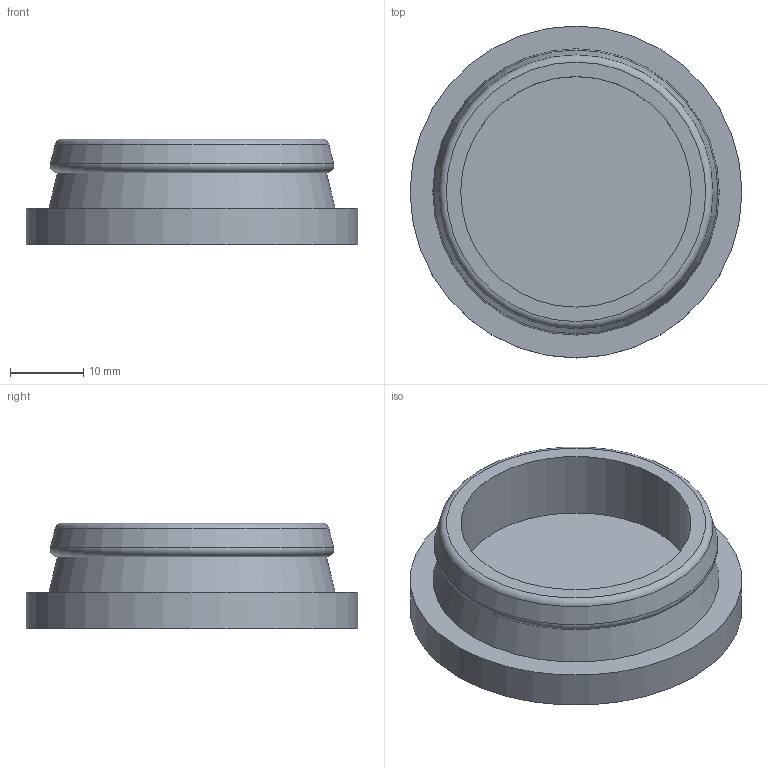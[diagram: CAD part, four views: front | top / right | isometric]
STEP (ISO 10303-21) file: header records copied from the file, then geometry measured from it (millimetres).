
FILE_DESCRIPTION(/* description */ (''),/* implementation_level */ '2;1');
FILE_NAME(/* name */ '/Users/paul/Documents/CrealityPrinter/stl files/DysonBracket/MyRemix/Upload/Connection_Cap-V2.step',/* time_stamp */ '2021-07-06T10:30:22+01:00',/* author */ (''),/* organization */ (''),/* preprocessor_version */ 'ST-DEVELOPER v18.1',/* originating_system */ 'Autodesk Translation Framework v10.9.0.1377',/* authorisation */ '');
FILE_SCHEMA (('AUTOMOTIVE_DESIGN { 1 0 10303 214 3 1 1 }'));
Length unit declared in the file: millimetre
Products named in the file (1): Connection Cap
Bounding box: 45.2 x 45.2 x 14.4 mm (x, y, z)
Volume: 11304.1 mm3; surface area: 5909.6 mm2
Topology: 1 solids, 1 shells, 11 faces, 16 edges, 10 vertices
Faces by surface type: plane 5, torus 2, cone 2, cylinder 2
Full cylindrical faces by diameter (mm): 31.4 x1, 45.2 x1
Entity records: 279 total; most frequent: DIRECTION 52, CARTESIAN_POINT 38, ORIENTED_EDGE 32, AXIS2_PLACEMENT_3D 24, EDGE_CURVE 16, EDGE_LOOP 14, CIRCLE 12, FACE_OUTER_BOUND 11
